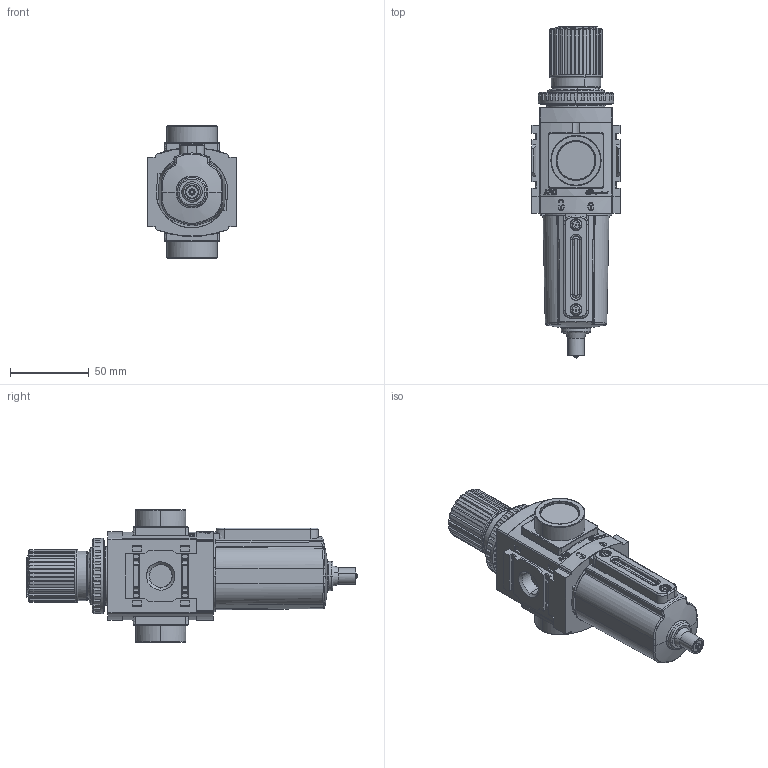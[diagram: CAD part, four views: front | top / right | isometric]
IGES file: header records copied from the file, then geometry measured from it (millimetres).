
Global section: file name: C:\Documents and Settings\szeedyk\Desktop\P392XX-X1X_01.igs; native system: NX V4.0; preprocessor: UGS NX IGES V4.0; date: 20090204.095305; units: inch
Bounding box: 56 x 210.96 x 84.1 mm (x, y, z)
Surface area: 47268.6 mm2 (no closed solid volume)
Topology: 0 solids, 0 shells, 1755 faces, 10187 edges, 10184 vertices
Faces by surface type: bspline 1755
